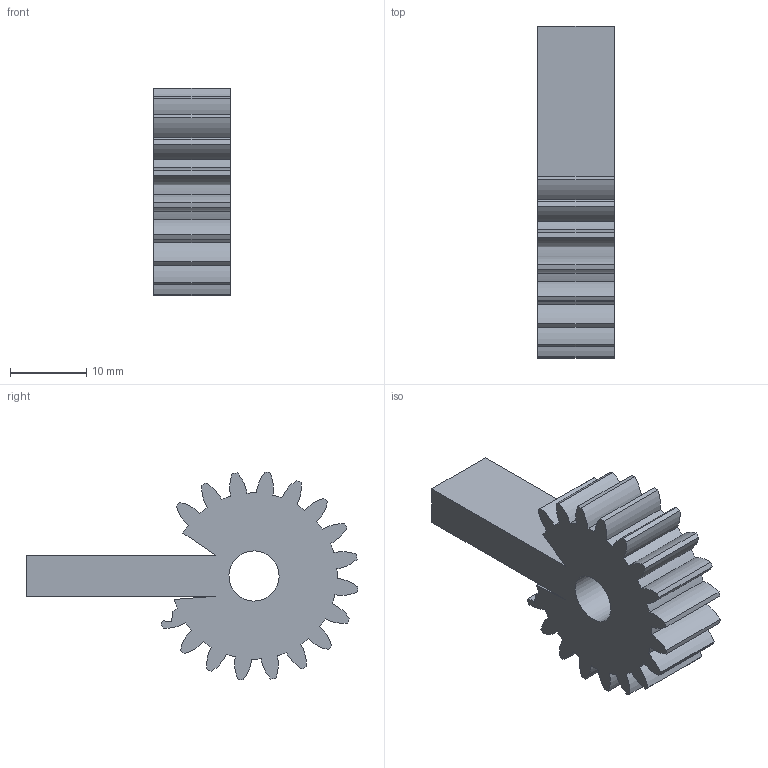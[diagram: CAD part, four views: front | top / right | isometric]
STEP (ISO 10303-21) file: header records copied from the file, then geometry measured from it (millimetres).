
FILE_DESCRIPTION(('Open CASCADE Model'),'2;1');
FILE_NAME('Open CASCADE Shape Model','2026-11-14T12:11:57',('Author'),( 'Open CASCADE'),'Open CASCADE STEP processor 8.0','Open CASCADE 8.0' ,'Unknown');
FILE_SCHEMA(('AUTOMOTIVE_DESIGN { 1 0 10303 214 1 1 1 1 }'));
Length unit declared in the file: millimetre
Products named in the file (1): Open CASCADE STEP translator 8.0 3
Bounding box: 10 x 43.67 x 27.35 mm (x, y, z)
Volume: 5178.1 mm3; surface area: 3268.2 mm2
Topology: 1 solids, 1 shells, 80 faces, 234 edges, 156 vertices
Faces by surface type: cylinder 71, plane 9
Full cylindrical faces by diameter (mm): 6.6 x1
Entity records: 5954 total; most frequent: CARTESIAN_POINT 1258, DIRECTION 952, ORIENTED_EDGE 468, PCURVE 468, DEFINITIONAL_REPRESENTATION 468, LINE 417, VECTOR 417, EDGE_CURVE 234
